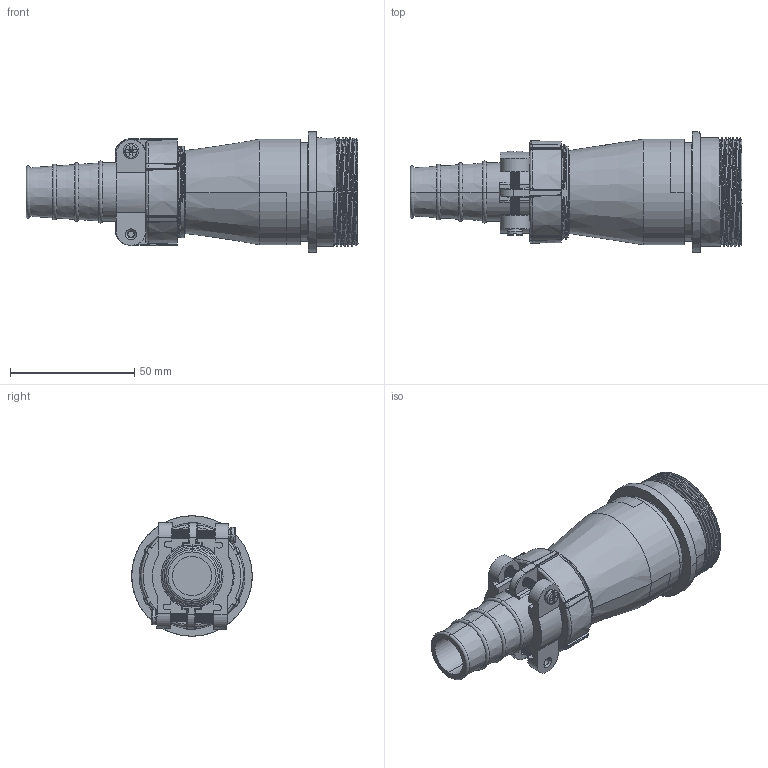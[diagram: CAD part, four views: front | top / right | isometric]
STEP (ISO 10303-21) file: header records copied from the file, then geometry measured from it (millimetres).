
FILE_DESCRIPTION((''),'2;1');
FILE_NAME('65_6_','2019-10-05T',('Administrator'),(''),'CREO PARAMETRIC BY PTC INC, 2016130','CREO PARAMETRIC BY PTC INC, 2016130','');
FILE_SCHEMA(('CONFIG_CONTROL_DESIGN'));
Products named in the file (1): 65_6_
Bounding box: 133.59 x 48.5 x 48.5 mm (x, y, z)
Volume: 101040 mm3; surface area: 47661.4 mm2
Topology: 1 solids, 1 shells, 2744 faces, 7849 edges, 5203 vertices
Faces by surface type: plane 1701, cylinder 502, extrusion 176, bspline 170, cone 133, torus 62
Entity records: 115494 total; most frequent: CARTESIAN_POINT 46071, ORIENTED_EDGE 15698, DIRECTION 12294, EDGE_CURVE 7849, VECTOR 5538, LINE 5362, VERTEX_POINT 5203, AXIS2_PLACEMENT_3D 3378
